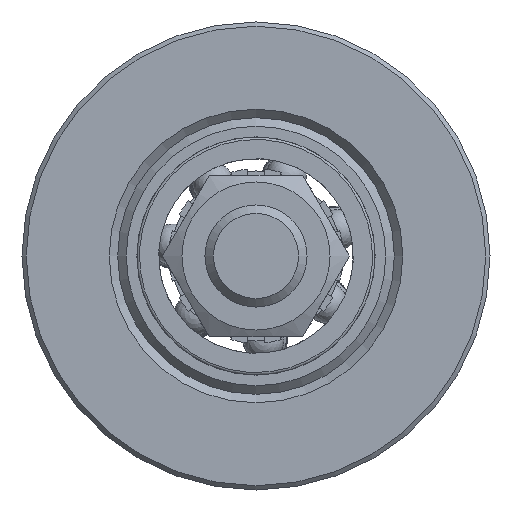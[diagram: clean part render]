
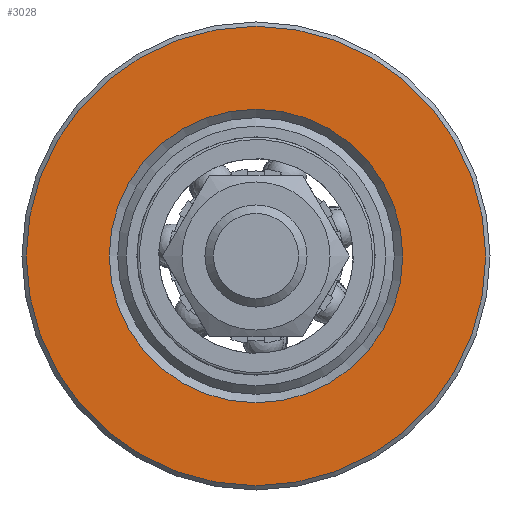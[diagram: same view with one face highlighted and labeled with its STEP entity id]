
A CAD part, left-side view. The second image highlights one B-rep face of the part: STEP entity #3028.
In plain terms, the highlighted planar face has unit normal (-1, 0, 0).
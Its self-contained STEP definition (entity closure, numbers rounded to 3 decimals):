
#611=FACE_BOUND('',#860,.T.);
#681=FACE_OUTER_BOUND('',#859,.T.);
#859=EDGE_LOOP('',(#2079));
#860=EDGE_LOOP('',(#2080));
#1101=CIRCLE('',#3221,17.25);
#1102=CIRCLE('',#3223,27.);
#1313=VERTEX_POINT('',#4626);
#1314=VERTEX_POINT('',#4629);
#1629=EDGE_CURVE('',#1313,#1313,#1101,.T.);
#1630=EDGE_CURVE('',#1314,#1314,#1102,.T.);
#2079=ORIENTED_EDGE('',*,*,#1630,.F.);
#2080=ORIENTED_EDGE('',*,*,#1629,.T.);
#2968=PLANE('',#3222);
#3028=ADVANCED_FACE('',(#681,#611),#2968,.T.);
#3221=AXIS2_PLACEMENT_3D('',#4627,#3640,#3641);
#3222=AXIS2_PLACEMENT_3D('',#4628,#3642,#3643);
#3223=AXIS2_PLACEMENT_3D('',#4630,#3644,#3645);
#3640=DIRECTION('center_axis',(1.,0.,0.));
#3641=DIRECTION('ref_axis',(0.,1.,0.));
#3642=DIRECTION('center_axis',(-1.,0.,0.));
#3643=DIRECTION('ref_axis',(0.,0.,1.));
#3644=DIRECTION('center_axis',(1.,0.,0.));
#3645=DIRECTION('ref_axis',(0.,1.,0.));
#4626=CARTESIAN_POINT('',(-10.,17.25,0.));
#4627=CARTESIAN_POINT('Origin',(-10.,0.,0.));
#4628=CARTESIAN_POINT('Origin',(-10.,22.125,0.));
#4629=CARTESIAN_POINT('',(-10.,27.,0.));
#4630=CARTESIAN_POINT('Origin',(-10.,0.,0.));
